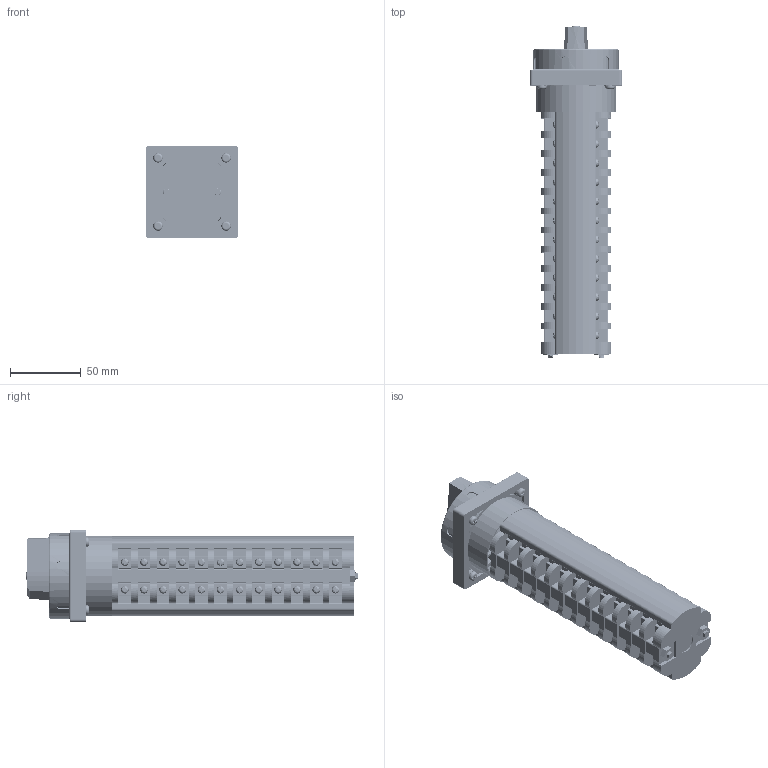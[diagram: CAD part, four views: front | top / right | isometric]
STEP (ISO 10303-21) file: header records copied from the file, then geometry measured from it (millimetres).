
FILE_DESCRIPTION(/* description */ (''),/* implementation_level */ '2;1');
FILE_NAME(/* name */ '4G16,25_S6_12_korpusow.stp',/* time_stamp */ '2021-07-21T10:59:18+02:00',/* author */ (''),/* organization */ (''),/* preprocessor_version */ 'ST-DEVELOPER v18.1',/* originating_system */ 'SIEMENS PLM Software NX 1965',/* authorisation */ '');
FILE_SCHEMA (('AUTOMOTIVE_DESIGN { 1 0 10303 214 3 1 1 1 }'));
Products named in the file (1): 4G16,25_S6_12_korpusow_stp
Bounding box: 65 x 234.1 x 65 mm (x, y, z)
Volume: 437341.3 mm3; surface area: 97576.4 mm2
Topology: 2 solids, 11 shells, 2544 faces, 7132 edges, 4700 vertices
Faces by surface type: plane 1527, cylinder 671, bspline 223, cone 102, torus 15, extrusion 6
Full cylindrical faces by diameter (mm): 2.9 x7, 3.1 x1, 4.3 x4, 5 x2, 5.4 x49, 5.6 x1, 6 x1, 6.7 x4, 7.2 x4, 8 x1, 14 x1, 55.8 x1, 57 x1, 58 x1, 60 x1
Entity records: 231955 total; most frequent: CARTESIAN_POINT 169582, ORIENTED_EDGE 13708, DIRECTION 11729, EDGE_CURVE 6854, VERTEX_POINT 4565, AXIS2_PLACEMENT_3D 4196, VECTOR 3337, LINE 3331
